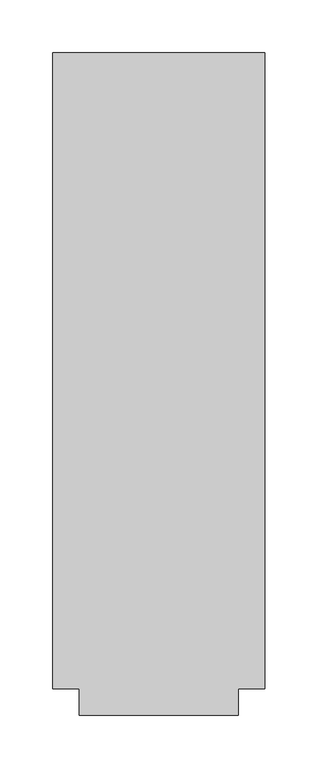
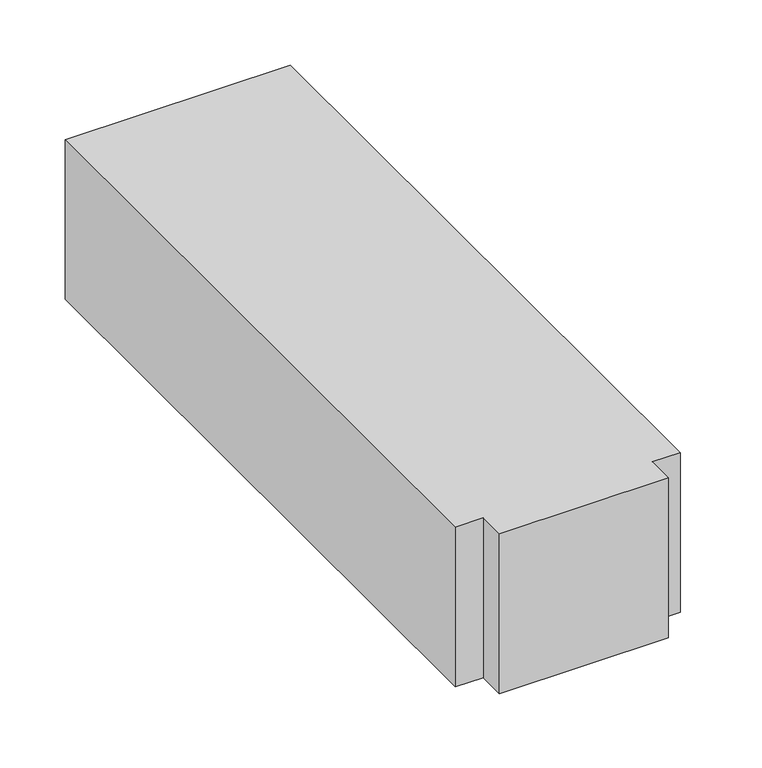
"""IFC4 building model written with IfcOpenShell, lengths in millimetres: duct fitting geometry, M_Te rectangular : Estándar."""

from ifc_helpers import new_model, si_unit, frame, origin, place, context, project, spatial, polyline, outline, extrude, source, transform, mapped, element, save


def duct_fitting_5d576b4c(model_context):
    return source(origin(), model_context, "Body", "SweptSolid", [
        extrude(outline(polyline([(-100.0, -300.0), (-100.0, 300.0), (100.0, 300.0), (100.0, -300.0), (75.0, -300.0), (75.0, -325.0), (-75.0, -325.0), (-75.0, -300.0), (-100.0, -300.0)])), frame((0.0, 0.0, -75.0), z_axis=(0.0, 0.0, 1.0), x_axis=(1.0, 0.0, 0.0)), (0.0, 0.0, 1.0), 150.0),
    ])


if __name__ == "__main__":
    model = new_model("IFC4")
    model_context = context("Model", 3, world=origin())
    ifc_project = project(units=[si_unit("LENGTHUNIT", "METRE", prefix="MILLI")], contexts=[model_context])
    site = spatial("IfcSite", under=ifc_project)
    building = spatial("IfcBuilding", under=site)
    placement = place(None, origin())
    duct_fitting_shape = duct_fitting_5d576b4c(model_context)
    element("IfcDuctFitting", 1, ObjectType="M_Te rectangular : Estándar", at=placement, inside=building, context=model_context, shape_type="MappedRepresentation", body=[
        mapped(duct_fitting_shape, transform((0.0, 0.0, 0.0), x_axis=(1.0, 0.0, 0.0), y_axis=(0.0, 1.0, 0.0), z_axis=(0.0, 0.0, 1.0))),
    ])
    save(model, "model.ifc")
